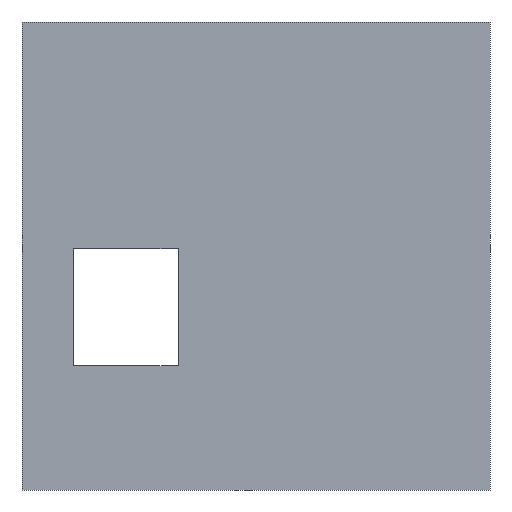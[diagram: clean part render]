
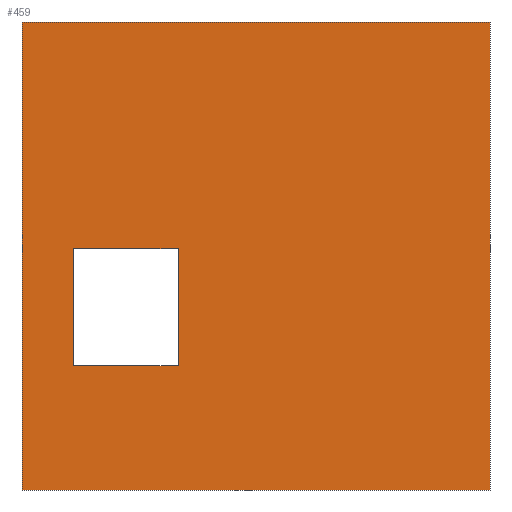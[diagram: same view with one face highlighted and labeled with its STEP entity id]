
A CAD part, front view. The second image highlights one B-rep face of the part: STEP entity #459.
In plain terms, the highlighted planar face has unit normal (0, -1, 0).
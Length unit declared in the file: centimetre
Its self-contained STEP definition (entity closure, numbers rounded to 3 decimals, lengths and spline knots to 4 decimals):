
#1 = EDGE_CURVE ( 'NONE', #166, #42, #43, .T. ) ;
#5 = CARTESIAN_POINT ( 'NONE',  ( 109.4135, 0., 515.7231 ) ) ;
#10 = FACE_BOUND ( 'NONE', #201, .T. ) ;
#27 = VECTOR ( 'NONE', #204, 100. ) ;
#30 = EDGE_CURVE ( 'NONE', #117, #453, #97, .T. ) ;
#40 = DIRECTION ( 'NONE',  ( 1., 0., 0. ) ) ;
#42 = VERTEX_POINT ( 'NONE', #5 ) ;
#43 = LINE ( 'NONE', #442, #452 ) ;
#51 = EDGE_LOOP ( 'NONE', ( #185, #228, #224, #143 ) ) ;
#55 = EDGE_CURVE ( 'NONE', #294, #166, #438, .T. ) ;
#65 = LINE ( 'NONE', #321, #27 ) ;
#76 = CARTESIAN_POINT ( 'NONE',  ( 1000., 0., 1000. ) ) ;
#92 = VECTOR ( 'NONE', #326, 100. ) ;
#94 = ORIENTED_EDGE ( 'NONE', *, *, #435, .T. ) ;
#97 = LINE ( 'NONE', #355, #191 ) ;
#100 = DIRECTION ( 'NONE',  ( 0., 0., -1. ) ) ;
#104 = CARTESIAN_POINT ( 'NONE',  ( 0., 0., 0. ) ) ;
#106 = CARTESIAN_POINT ( 'NONE',  ( 109.4135, 0., 265.0478 ) ) ;
#109 = PLANE ( 'NONE',  #340 ) ;
#116 = DIRECTION ( 'NONE',  ( 0., 0., -1. ) ) ;
#117 = VERTEX_POINT ( 'NONE', #443 ) ;
#129 = DIRECTION ( 'NONE',  ( 1., 0., 0. ) ) ;
#139 = DIRECTION ( 'NONE',  ( 0., 0., 1. ) ) ;
#143 = ORIENTED_EDGE ( 'NONE', *, *, #30, .T. ) ;
#148 = VECTOR ( 'NONE', #116, 100. ) ;
#156 = DIRECTION ( 'NONE',  ( 0., 1., 0. ) ) ;
#163 = VERTEX_POINT ( 'NONE', #76 ) ;
#166 = VERTEX_POINT ( 'NONE', #190 ) ;
#182 = CARTESIAN_POINT ( 'NONE',  ( 0., 0., 0. ) ) ;
#185 = ORIENTED_EDGE ( 'NONE', *, *, #303, .T. ) ;
#190 = CARTESIAN_POINT ( 'NONE',  ( 109.4135, 0., 265.0478 ) ) ;
#191 = VECTOR ( 'NONE', #100, 100. ) ;
#196 = EDGE_CURVE ( 'NONE', #264, #294, #451, .T. ) ;
#201 = EDGE_LOOP ( 'NONE', ( #324, #387, #94, #236 ) ) ;
#204 = DIRECTION ( 'NONE',  ( 0., 0., -1. ) ) ;
#207 = CARTESIAN_POINT ( 'NONE',  ( 333.6749, 0., 265.0478 ) ) ;
#215 = CARTESIAN_POINT ( 'NONE',  ( 109.4135, 0., 515.7231 ) ) ;
#224 = ORIENTED_EDGE ( 'NONE', *, *, #231, .F. ) ;
#228 = ORIENTED_EDGE ( 'NONE', *, *, #312, .F. ) ;
#231 = EDGE_CURVE ( 'NONE', #117, #163, #302, .T. ) ;
#236 = ORIENTED_EDGE ( 'NONE', *, *, #196, .T. ) ;
#260 = FACE_OUTER_BOUND ( 'NONE', #51, .T. ) ;
#264 = VERTEX_POINT ( 'NONE', #411 ) ;
#272 = DIRECTION ( 'NONE',  ( -1., 0., 0. ) ) ;
#284 = LINE ( 'NONE', #215, #92 ) ;
#294 = VERTEX_POINT ( 'NONE', #207 ) ;
#295 = VECTOR ( 'NONE', #272, 100. ) ;
#302 = LINE ( 'NONE', #461, #307 ) ;
#303 = EDGE_CURVE ( 'NONE', #453, #449, #406, .T. ) ;
#307 = VECTOR ( 'NONE', #129, 100. ) ;
#312 = EDGE_CURVE ( 'NONE', #163, #449, #65, .T. ) ;
#321 = CARTESIAN_POINT ( 'NONE',  ( 1000., 0., 1000. ) ) ;
#324 = ORIENTED_EDGE ( 'NONE', *, *, #55, .T. ) ;
#326 = DIRECTION ( 'NONE',  ( 1., 0., 0. ) ) ;
#340 = AXIS2_PLACEMENT_3D ( 'NONE', #425, #156, #447 ) ;
#355 = CARTESIAN_POINT ( 'NONE',  ( 0., 0., 1000. ) ) ;
#370 = VECTOR ( 'NONE', #40, 100. ) ;
#371 = CARTESIAN_POINT ( 'NONE',  ( 1000., 0., 0. ) ) ;
#387 = ORIENTED_EDGE ( 'NONE', *, *, #1, .T. ) ;
#406 = LINE ( 'NONE', #104, #370 ) ;
#411 = CARTESIAN_POINT ( 'NONE',  ( 333.6749, 0., 515.7231 ) ) ;
#425 = CARTESIAN_POINT ( 'NONE',  ( 0., 0., 1000. ) ) ;
#435 = EDGE_CURVE ( 'NONE', #42, #264, #284, .T. ) ;
#438 = LINE ( 'NONE', #106, #295 ) ;
#442 = CARTESIAN_POINT ( 'NONE',  ( 109.4135, 0., 265.0478 ) ) ;
#443 = CARTESIAN_POINT ( 'NONE',  ( 0., 0., 1000. ) ) ;
#447 = DIRECTION ( 'NONE',  ( 0., 0., 1. ) ) ;
#449 = VERTEX_POINT ( 'NONE', #371 ) ;
#451 = LINE ( 'NONE', #455, #148 ) ;
#452 = VECTOR ( 'NONE', #139, 100. ) ;
#453 = VERTEX_POINT ( 'NONE', #182 ) ;
#455 = CARTESIAN_POINT ( 'NONE',  ( 333.6749, 0., 265.0478 ) ) ;
#459 = ADVANCED_FACE ( 'NONE', ( #10, #260 ), #109, .F. ) ;
#461 = CARTESIAN_POINT ( 'NONE',  ( 0., 0., 1000. ) ) ;
